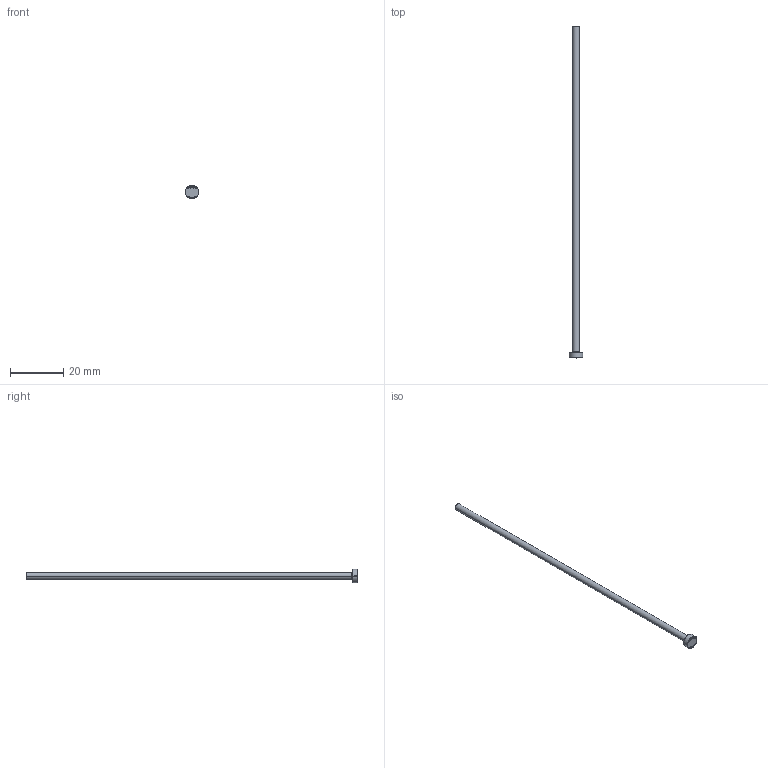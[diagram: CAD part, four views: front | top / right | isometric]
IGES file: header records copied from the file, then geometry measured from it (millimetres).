
Start section: SolidWorks IGES file using analytic representation for surfaces
Global section: file name: C:\Users\User\Downloads\Matripeça 31-08 tar\PB - PINO EXTRATOR TIPO _B_ (CATÁLOGO)\PB02,5\PB02,5125.IGS; native system: SolidWorks 2024; preprocessor: SolidWorks 2024; author: User; date: 260901.140951; units: millimetre
Bounding box: 5 x 125 x 5 mm (x, y, z)
Surface area: 1039.7 mm2 (no closed solid volume)
Topology: 0 solids, 0 shells, 404 faces, 3013 edges, 3013 vertices
Faces by surface type: bspline 390, revolution 14
